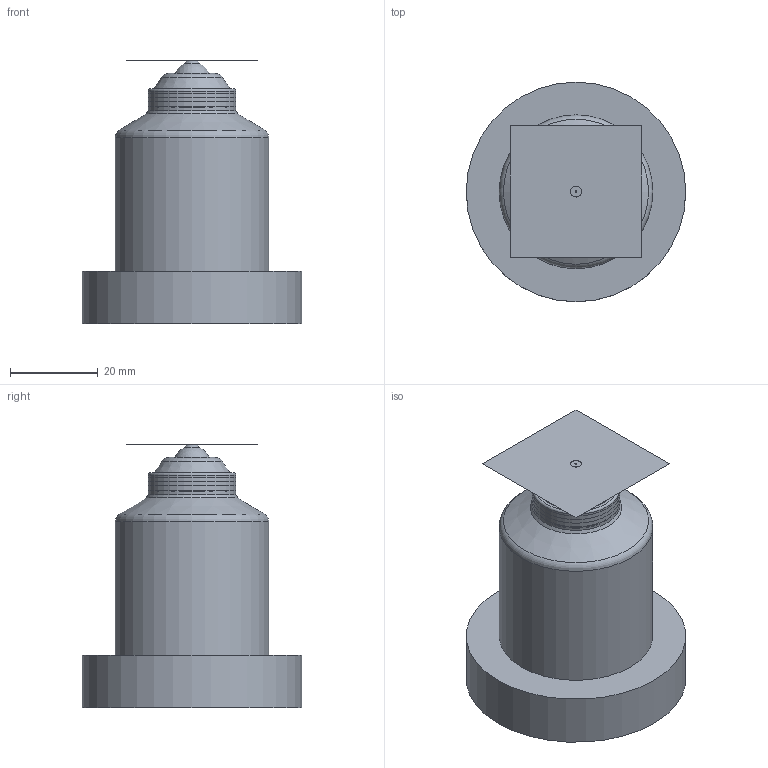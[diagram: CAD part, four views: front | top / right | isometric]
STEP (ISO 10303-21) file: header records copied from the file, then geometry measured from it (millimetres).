
FILE_DESCRIPTION (( 'STEP AP214' ), '1' );
FILE_NAME ('12E-06-060_TTW.STEP', '2021-01-25T13:12:46', ( '' ), ( '' ), 'SwSTEP 2.0', 'SolidWorks 2018', '' );
FILE_SCHEMA (( 'AUTOMOTIVE_DESIGN' ));
Length unit declared in the file: millimetre
Products named in the file (3): 12E-06-060_TTW; cutout_12E-06-060-TTW; nozzle_12E-06-060-TTW
Assembly tree (2 placements, depth 2):
  12E-06-060_TTW
    nozzle_12E-06-060-TTW
    cutout_12E-06-060-TTW
Bounding box: 50 x 50 x 60 mm (x, y, z)
Volume: 59037.6 mm3; surface area: 18887.5 mm2
Topology: 1 solids, 12 shells, 202 faces, 519 edges, 336 vertices
Faces by surface type: plane 93, cylinder 68, torus 28, cone 12, sphere 1
Full cylindrical faces by diameter (mm): 2 x2, 2.5 x1, 6 x2, 19.5 x1, 20 x3, 21 x1, 24 x1, 25 x1, 28 x1, 31 x1, 35 x1, 50 x1
Entity records: 6507 total; most frequent: CARTESIAN_POINT 1604, DIRECTION 1032, ORIENTED_EDGE 938, EDGE_CURVE 471, AXIS2_PLACEMENT_3D 396, VERTEX_POINT 326, EDGE_LOOP 252, LINE 240
